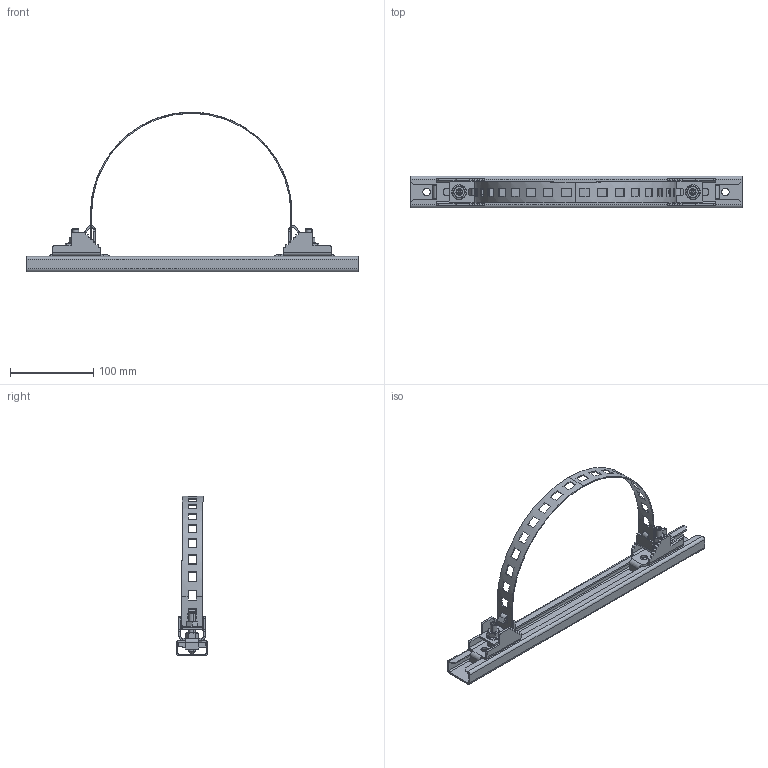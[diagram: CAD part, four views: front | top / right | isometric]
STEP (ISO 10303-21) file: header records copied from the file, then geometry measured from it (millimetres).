
FILE_DESCRIPTION (( 'STEP AP203' ), '1' );
FILE_NAME ('OK 40 EP.STEP', '2021-03-09T14:43:59', ( '' ), ( '' ), 'SwSTEP 2.0', 'SolidWorks 2018', '' );
FILE_SCHEMA (( 'CONFIG_CONTROL_DESIGN' ));
Length unit declared in the file: millimetre
Products named in the file (9): Ãàéêà õîäîâàÿ Ì8; OK 40 EP; Êðîíøòåéí äëÿ êðåïëåíèÿ ê ñòîëáó; Âèíò Ì8õ50 ÃÎÑÒ 8878-93_Œ8å50; Ãàéêà îö. ñ ôëàíöåì, ðèôëåíàÿ Ì8 DIN 6923_Hexagon Flange Nut DIN 6923 - M8 - C; 襄痿铍屙蜞 450祆_懏－汊狅-1; Òðàâåðñà (ñ èñïîëíåíèÿìè 200-1200)_’à ¢¥àá  400; Ãàéêà îö. Ì8 DIN 934; Óãîëîê âàð. 2
Assembly tree (14 placements, depth 2):
  OK 40 EP
    Òðàâåðñà (ñ èñïîëíåíèÿìè 200-1200)_’à ¢¥àá  400
    Ãàéêà õîäîâàÿ Ì8  x2
    Âèíò Ì8õ50 ÃÎÑÒ 8878-93_Œ8å50  x2
    Êðîíøòåéí äëÿ êðåïëåíèÿ ê ñòîëáó  x2
    Ãàéêà îö. ñ ôëàíöåì, ðèôëåíàÿ Ì8 DIN 6923_Hexagon Flange Nut DIN 6923 - M8 - C  x2
    Óãîëîê âàð. 2  x2
    Ãàéêà îö. Ì8 DIN 934  x2
    襄痿铍屙蜞 450祆_懏－汊狅-1
Bounding box: 400 x 38.05 x 192.31 mm (x, y, z)
Volume: 121320.5 mm3; surface area: 123761.5 mm2
Topology: 14 solids, 14 shells, 574 faces, 1398 edges, 846 vertices
Faces by surface type: plane 386, cylinder 96, cone 76, bspline 12, torus 4
Entity records: 12101 total; most frequent: CARTESIAN_POINT 2256, DIRECTION 1818, ORIENTED_EDGE 1796, EDGE_CURVE 898, VECTOR 612, LINE 612, AXIS2_PLACEMENT_3D 603, VERTEX_POINT 549
